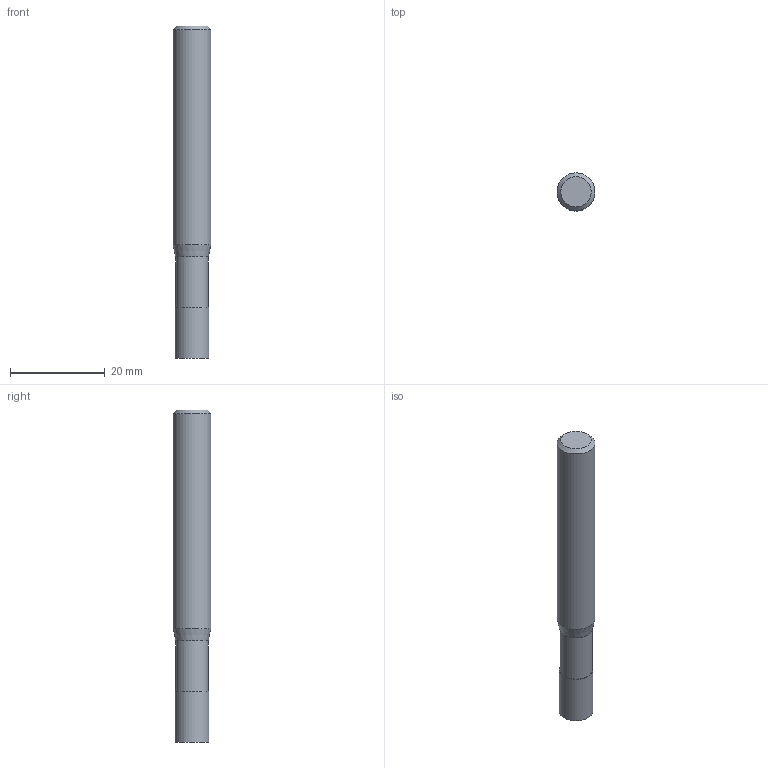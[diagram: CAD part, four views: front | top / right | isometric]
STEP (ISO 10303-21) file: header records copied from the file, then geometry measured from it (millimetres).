
FILE_DESCRIPTION((''),'2;1');
FILE_NAME('C:\Users\nsx150\AppData\Local\Temp\Mastercam 2021\EUJSUNXURU\TEMP.step','2021-04-22T10:29:08',(''),(''),'STEP Write','Mastercam 2021 ... CNC Software, Inc.','');
FILE_SCHEMA(('AUTOMOTIVE_DESIGN'));
Length unit declared in the file: millimetre
Products named in the file (1): None
Bounding box: 8 x 8 x 70 mm (x, y, z)
Volume: 3243.4 mm3; surface area: 1843.5 mm2
Topology: 2 solids, 2 shells, 9 faces, 12 edges, 7 vertices
Faces by surface type: plane 4, cylinder 3, cone 2
Full cylindrical faces by diameter (mm): 6.9 x1, 7.1 x1, 8 x1
Entity records: 211 total; most frequent: DIRECTION 36, CARTESIAN_POINT 25, AXIS2_PLACEMENT_3D 18, ORIENTED_EDGE 14, EDGE_LOOP 14, STYLED_ITEM 12, ADVANCED_FACE 9, FACE_BOUND 8
